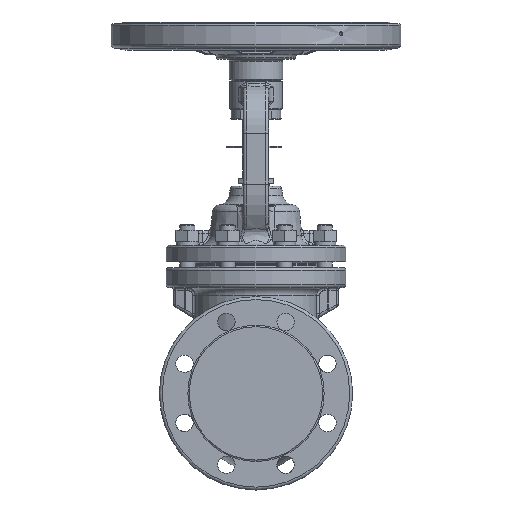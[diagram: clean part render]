
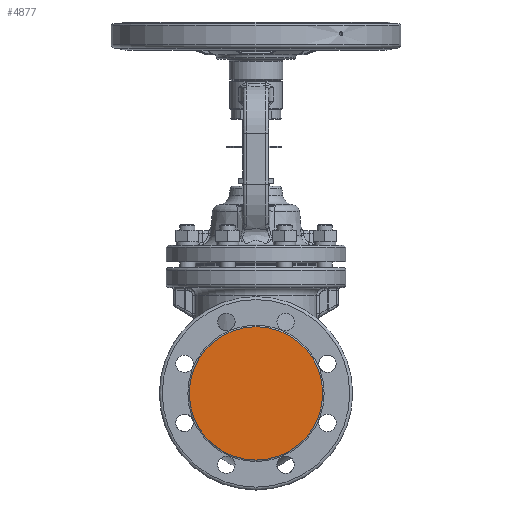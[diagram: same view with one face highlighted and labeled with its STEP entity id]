
A CAD part, front view. The second image highlights one B-rep face of the part: STEP entity #4877.
In plain terms, the highlighted planar face has unit normal (0, -1, 0).
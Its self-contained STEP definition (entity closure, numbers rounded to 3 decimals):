
#779=FACE_OUTER_BOUND('',#6982,.T.);
#2873=PLANE('',#20045);
#4877=ADVANCED_FACE('',(#779),#2873,.F.);
#6982=EDGE_LOOP('',(#8708));
#8708=ORIENTED_EDGE('',*,*,#16164,.F.);
#14364=VERTEX_POINT('',#44074);
#16164=EDGE_CURVE('',#14364,#14364,#18911,.T.);
#18911=CIRCLE('',#20041,69.);
#20041=AXIS2_PLACEMENT_3D('',#44073,#22419,#22420);
#20045=AXIS2_PLACEMENT_3D('',#44079,#22427,#22428);
#22419=DIRECTION('',(0.,1.,0.));
#22420=DIRECTION('',(-1.,0.,0.));
#22427=DIRECTION('',(0.,1.,0.));
#22428=DIRECTION('',(-1.,0.,0.));
#44073=CARTESIAN_POINT('',(0.,-155.,0.));
#44074=CARTESIAN_POINT('',(-69.,-155.,0.));
#44079=CARTESIAN_POINT('',(0.,-155.,0.));
